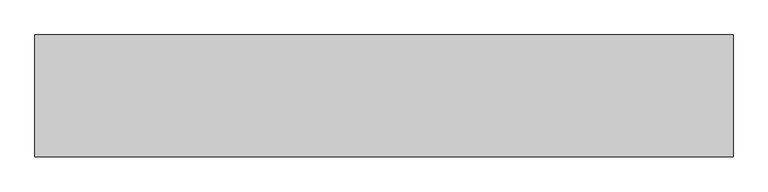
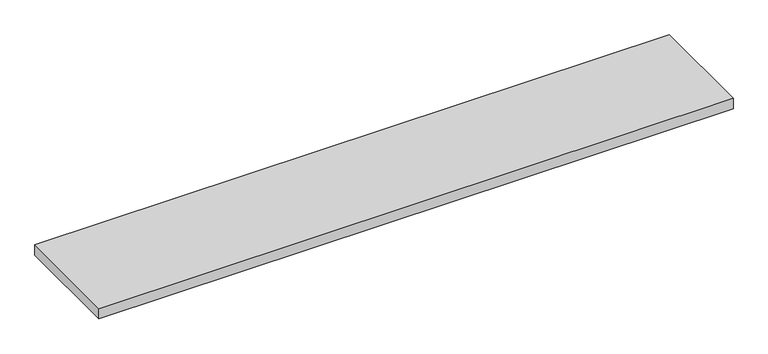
"""IFC4 building model written with IfcOpenShell, lengths in millimetres: proxy geometry, Vita_Решетка : РАП_Алюминиевая продольная."""

from ifc_helpers import new_model, si_unit, frame, origin, place, context, project, spatial, polyline, outline, extrude, source, transform, mapped, element, save


def mechanical_equipment_52e8bd0e(model_context):
    return source(origin(), model_context, "Body", "SweptSolid", [
        extrude(outline(polyline([(-599.0, -112.8), (599.0, -112.8), (599.0, -322.2), (-599.0, -322.2), (-599.0, -112.8)])), frame((0.0, 0.0, 329.83), z_axis=(0.0, 0.0, 1.0), x_axis=(1.0, 0.0, 0.0)), (0.0, 0.0, 1.0), 20.17),
    ])


if __name__ == "__main__":
    model = new_model("IFC4")
    model_context = context("Model", 3, world=origin())
    ifc_project = project(units=[si_unit("LENGTHUNIT", "METRE", prefix="MILLI")], contexts=[model_context])
    site = spatial("IfcSite", under=ifc_project)
    building = spatial("IfcBuilding", under=site)
    placement = place(None, origin())
    mechanical_equipment_shape = mechanical_equipment_52e8bd0e(model_context)
    element("IfcBuildingElementProxy", 1, Name="Vita_Решетка : РАП_Алюминиевая продольная", ObjectType="Vita_Решетка : РАП_Алюминиевая продольная", at=placement, inside=building, context=model_context, shape_type="MappedRepresentation", body=[
        mapped(mechanical_equipment_shape, transform((0.0, 0.0, 0.0), x_axis=(1.0, 0.0, 0.0), y_axis=(0.0, 1.0, 0.0), z_axis=(0.0, 0.0, 1.0))),
    ])
    save(model, "model.ifc")
